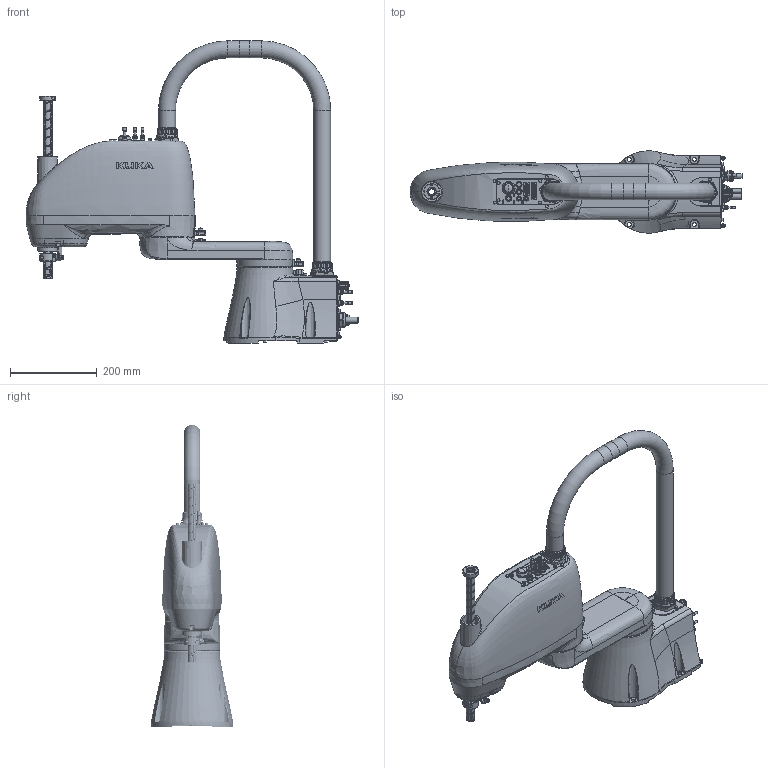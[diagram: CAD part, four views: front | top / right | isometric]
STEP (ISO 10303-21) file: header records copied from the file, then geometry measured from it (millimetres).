
FILE_DESCRIPTION(/* description */ (''),/* implementation_level */ '2;1');
FILE_NAME(/* name */ 'KR6 R500 Z200.stp',/* time_stamp */ '2021-06-03T09:32:26+08:00',/* author */ (''),/* organization */ (''),/* preprocessor_version */ 'ST-DEVELOPER v16.7',/* originating_system */ 'SIEMENS PLM Software NX 12.0',/* authorisation */ '');
FILE_SCHEMA (('AUTOMOTIVE_DESIGN { 1 0 10303 214 3 1 1 1 }'));
Length unit declared in the file: millimetre
Products named in the file (7): 394.088-10.000.06-01umm000~00; 394.088-10.000.05-01umm000~00; 394.088-10.000.04-01umm000~00; 394.088-10.000.03-01umm000~00; 394.088-10.000.02-01umm000~00; 394.088-10.000.01-01umm000~00; 394.088-10.001.00-00umm000~00
Assembly tree (6 placements, depth 2):
  394.088-10.001.00-00umm000~00
    394.088-10.000.01-01umm000~00
    394.088-10.000.02-01umm000~00
    394.088-10.000.03-01umm000~00
    394.088-10.000.04-01umm000~00
    394.088-10.000.05-01umm000~00
    394.088-10.000.06-01umm000~00
Bounding box: 764.69 x 189.73 x 696.1 mm (x, y, z)
Volume: 11106130.1 mm3; surface area: 873934.4 mm2
Topology: 23 solids, 52 shells, 4663 faces, 11883 edges, 7560 vertices
Faces by surface type: plane 1673, cylinder 1455, cone 622, bspline 387, torus 282, extrusion 227, sphere 16, revolution 1
Full cylindrical faces by diameter (mm): 1.1 x15, 2 x15, 2.5 x1, 2.8 x1, 2.84 x7, 3 x1, 3.3 x9, 4 x34, 4.3 x6, 4.5 x12, 4.8 x4, 5 x6, 6 x9, 6.8 x4, 7 x42, 7.7 x4, 7.9 x4, 8 x10, 8.6 x1, 9 x12, 9.7 x4, 9.9 x4, 10 x4, 11 x5, 12 x2, 13.4 x1, 14 x2, 17.5 x1, 18.9 x1, 20 x1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
Entity records: 460813 total; most frequent: CARTESIAN_POINT 336668, ORIENTED_EDGE 22610, DIRECTION 18933, EDGE_CURVE 11305, AXIS2_PLACEMENT_3D 7415, VERTEX_POINT 7385, EDGE_LOOP 5452, ADVANCED_FACE 4655
